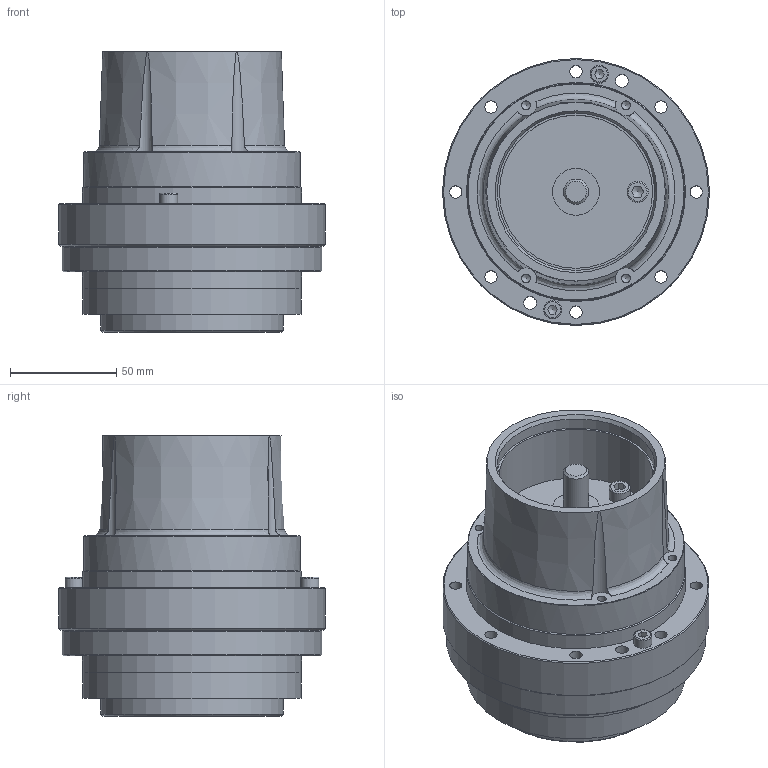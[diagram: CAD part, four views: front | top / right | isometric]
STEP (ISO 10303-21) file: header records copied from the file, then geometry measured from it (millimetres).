
FILE_DESCRIPTION((''),'2;1');
FILE_NAME('I:\MJ JOBS\Nabtesco\CAD Files\RD-E Models\RD-006E.stp','2005-10-18T14:04:08',('Jeff Miles'),(''),'Autodesk Inventor 10','Autodesk Inventor 10','');
FILE_SCHEMA(('AUTOMOTIVE_DESIGN { 1 0 10303 214 1 1 1 1 }'));
Length unit declared in the file: millimetre
Products named in the file (6): RD-006E; RD-006E1_1; RD-006E2; RD-006E3; RD-006E4; RD-006E5
Assembly tree (5 placements, depth 2):
  RD-006E
    RD-006E1_1
    RD-006E2
    RD-006E3
    RD-006E4
    RD-006E5
Bounding box: 125.5 x 125.5 x 132 mm (x, y, z)
Volume: 917768.3 mm3; surface area: 86710.9 mm2
Topology: 5 solids, 5 shells, 147 faces, 344 edges, 224 vertices
Faces by surface type: plane 50, bspline 44, cylinder 26, cone 23, torus 4
Full cylindrical faces by diameter (mm): 5 x2, 6 x2, 8.5 x2, 10 x2, 11.8 x1, 20 x3, 22 x1, 72 x1, 74 x1, 86 x1, 102 x1, 102.8 x1, 103 x2, 122 x1, 125.5 x1
Entity records: 4492 total; most frequent: CARTESIAN_POINT 1710, DIRECTION 534, ORIENTED_EDGE 434, EDGE_LOOP 272, AXIS2_PLACEMENT_3D 243, EDGE_CURVE 217, VERTEX_POINT 181, FACE_OUTER_BOUND 147
